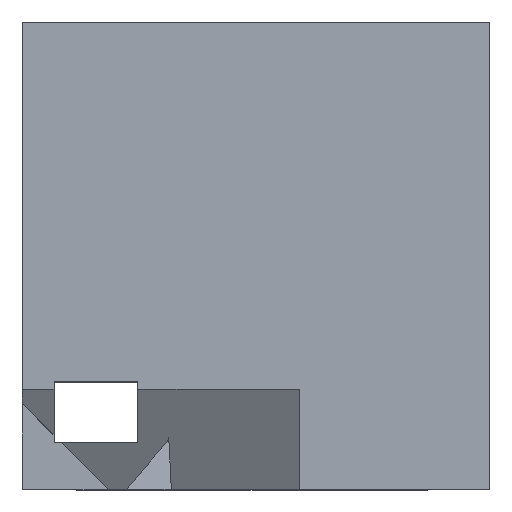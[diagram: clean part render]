
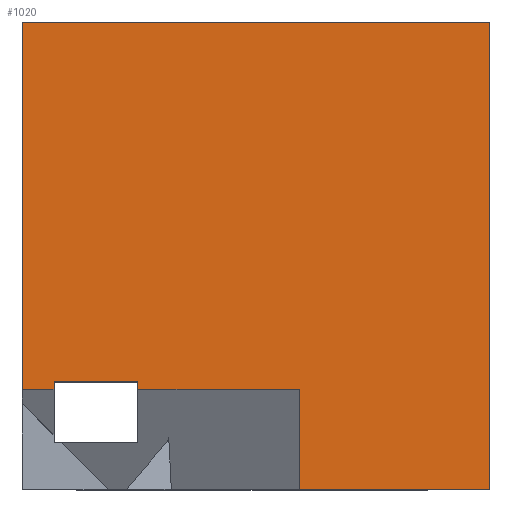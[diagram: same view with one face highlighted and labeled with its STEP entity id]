
A CAD part, top view. The second image highlights one B-rep face of the part: STEP entity #1020.
In plain terms, the highlighted planar face has unit normal (0, 0, 1).
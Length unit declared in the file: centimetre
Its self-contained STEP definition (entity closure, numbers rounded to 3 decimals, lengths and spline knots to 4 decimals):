
#30 = LINE ( 'NONE', #579, #475 ) ;
#38 = CARTESIAN_POINT ( 'NONE',  ( 67.6433, 230.5121, 1000. ) ) ;
#66 = LINE ( 'NONE', #416, #700 ) ;
#69 = DIRECTION ( 'NONE',  ( -1., 0., 0. ) ) ;
#73 = CARTESIAN_POINT ( 'NONE',  ( 593.2385, 0., 1000. ) ) ;
#74 = ORIENTED_EDGE ( 'NONE', *, *, #1400, .F. ) ;
#158 = EDGE_CURVE ( 'NONE', #734, #1317, #636, .T. ) ;
#161 = VECTOR ( 'NONE', #184, 100. ) ;
#165 = VECTOR ( 'NONE', #867, 100. ) ;
#179 = LINE ( 'NONE', #1272, #1271 ) ;
#181 = LINE ( 'NONE', #513, #1153 ) ;
#184 = DIRECTION ( 'NONE',  ( 0., 1., 0. ) ) ;
#203 = CARTESIAN_POINT ( 'NONE',  ( 247.0473, 213.6076, 1000. ) ) ;
#213 = ORIENTED_EDGE ( 'NONE', *, *, #646, .T. ) ;
#221 = DIRECTION ( 'NONE',  ( 1., 0., 0. ) ) ;
#244 = VERTEX_POINT ( 'NONE', #38 ) ;
#280 = PLANE ( 'NONE',  #1107 ) ;
#295 = EDGE_CURVE ( 'NONE', #1177, #916, #801, .T. ) ;
#344 = EDGE_CURVE ( 'NONE', #840, #1097, #66, .T. ) ;
#347 = ORIENTED_EDGE ( 'NONE', *, *, #295, .F. ) ;
#416 = CARTESIAN_POINT ( 'NONE',  ( 0., 0., 1000. ) ) ;
#425 = VECTOR ( 'NONE', #910, 100. ) ;
#468 = LINE ( 'NONE', #1142, #1086 ) ;
#475 = VECTOR ( 'NONE', #1011, 100. ) ;
#494 = CARTESIAN_POINT ( 'NONE',  ( 1000., 0., 1000. ) ) ;
#513 = CARTESIAN_POINT ( 'NONE',  ( 1000., 1000., 1000. ) ) ;
#524 = VECTOR ( 'NONE', #1104, 100. ) ;
#539 = CARTESIAN_POINT ( 'NONE',  ( 67.6433, 213.6076, 1000. ) ) ;
#559 = VECTOR ( 'NONE', #869, 100. ) ;
#577 = DIRECTION ( 'NONE',  ( 0., 0., 1. ) ) ;
#579 = CARTESIAN_POINT ( 'NONE',  ( 0., 1000., 1000. ) ) ;
#599 = CARTESIAN_POINT ( 'NONE',  ( 1000., 1000., 1000. ) ) ;
#603 = DIRECTION ( 'NONE',  ( 0., 1., 0. ) ) ;
#630 = CARTESIAN_POINT ( 'NONE',  ( 0., 1000., 1000. ) ) ;
#636 = LINE ( 'NONE', #1090, #165 ) ;
#646 = EDGE_CURVE ( 'NONE', #1317, #815, #30, .T. ) ;
#668 = ORIENTED_EDGE ( 'NONE', *, *, #1235, .T. ) ;
#700 = VECTOR ( 'NONE', #221, 100. ) ;
#706 = CARTESIAN_POINT ( 'NONE',  ( 593.2385, 213.6076, 1000. ) ) ;
#709 = CARTESIAN_POINT ( 'NONE',  ( 0., 213.6076, 1000. ) ) ;
#734 = VERTEX_POINT ( 'NONE', #599 ) ;
#777 = ORIENTED_EDGE ( 'NONE', *, *, #344, .T. ) ;
#801 = LINE ( 'NONE', #1342, #425 ) ;
#815 = VERTEX_POINT ( 'NONE', #709 ) ;
#818 = EDGE_CURVE ( 'NONE', #840, #1177, #1131, .T. ) ;
#840 = VERTEX_POINT ( 'NONE', #73 ) ;
#853 = ORIENTED_EDGE ( 'NONE', *, *, #970, .F. ) ;
#861 = ORIENTED_EDGE ( 'NONE', *, *, #818, .F. ) ;
#867 = DIRECTION ( 'NONE',  ( -1., 0., 0. ) ) ;
#869 = DIRECTION ( 'NONE',  ( 0., -1., 0. ) ) ;
#873 = ORIENTED_EDGE ( 'NONE', *, *, #1135, .F. ) ;
#894 = CARTESIAN_POINT ( 'NONE',  ( 0., 0., 1000. ) ) ;
#910 = DIRECTION ( 'NONE',  ( -1., 0., 0. ) ) ;
#916 = VERTEX_POINT ( 'NONE', #203 ) ;
#929 = VERTEX_POINT ( 'NONE', #1183 ) ;
#940 = DIRECTION ( 'NONE',  ( 0., 1., 0. ) ) ;
#969 = VERTEX_POINT ( 'NONE', #539 ) ;
#970 = EDGE_CURVE ( 'NONE', #929, #244, #974, .T. ) ;
#974 = LINE ( 'NONE', #1302, #524 ) ;
#1011 = DIRECTION ( 'NONE',  ( 0., -1., 0. ) ) ;
#1020 = ADVANCED_FACE ( 'NONE', ( #1285 ), #280, .T. ) ;
#1084 = LINE ( 'NONE', #1195, #559 ) ;
#1086 = VECTOR ( 'NONE', #603, 100. ) ;
#1090 = CARTESIAN_POINT ( 'NONE',  ( 0., 1000., 1000. ) ) ;
#1097 = VERTEX_POINT ( 'NONE', #494 ) ;
#1104 = DIRECTION ( 'NONE',  ( -1., 0., 0. ) ) ;
#1107 = AXIS2_PLACEMENT_3D ( 'NONE', #894, #577, #1337 ) ;
#1131 = LINE ( 'NONE', #1148, #161 ) ;
#1135 = EDGE_CURVE ( 'NONE', #916, #929, #468, .T. ) ;
#1142 = CARTESIAN_POINT ( 'NONE',  ( 247.0473, 101.0493, 1000. ) ) ;
#1148 = CARTESIAN_POINT ( 'NONE',  ( 593.2385, 0., 1000. ) ) ;
#1153 = VECTOR ( 'NONE', #940, 100. ) ;
#1156 = EDGE_LOOP ( 'NONE', ( #74, #853, #873, #347, #861, #777, #668, #1202, #213, #1386 ) ) ;
#1158 = EDGE_CURVE ( 'NONE', #969, #815, #179, .T. ) ;
#1177 = VERTEX_POINT ( 'NONE', #706 ) ;
#1183 = CARTESIAN_POINT ( 'NONE',  ( 247.0473, 230.5121, 1000. ) ) ;
#1195 = CARTESIAN_POINT ( 'NONE',  ( 67.6433, 101.0493, 1000. ) ) ;
#1202 = ORIENTED_EDGE ( 'NONE', *, *, #158, .T. ) ;
#1235 = EDGE_CURVE ( 'NONE', #1097, #734, #181, .T. ) ;
#1271 = VECTOR ( 'NONE', #69, 100. ) ;
#1272 = CARTESIAN_POINT ( 'NONE',  ( 593.2385, 213.6076, 1000. ) ) ;
#1285 = FACE_OUTER_BOUND ( 'NONE', #1156, .T. ) ;
#1302 = CARTESIAN_POINT ( 'NONE',  ( 67.6433, 230.5121, 1000. ) ) ;
#1317 = VERTEX_POINT ( 'NONE', #630 ) ;
#1337 = DIRECTION ( 'NONE',  ( 1., 0., 0. ) ) ;
#1342 = CARTESIAN_POINT ( 'NONE',  ( 593.2385, 213.6076, 1000. ) ) ;
#1386 = ORIENTED_EDGE ( 'NONE', *, *, #1158, .F. ) ;
#1400 = EDGE_CURVE ( 'NONE', #244, #969, #1084, .T. ) ;
